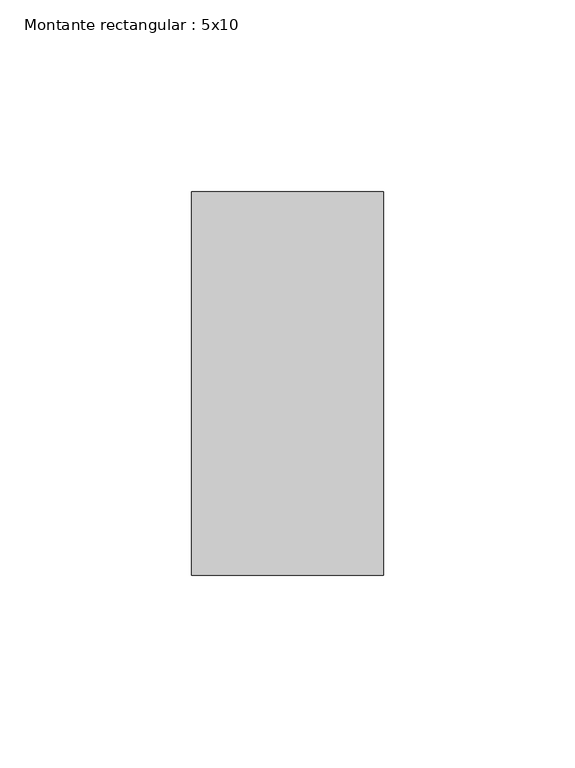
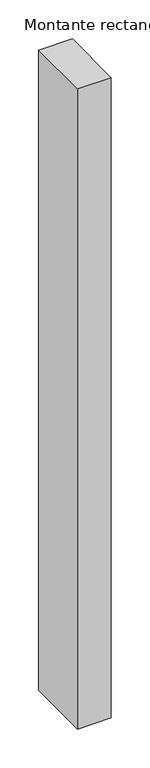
"""IFC4 building model written with IfcOpenShell, lengths in millimetres: member geometry, Montante rectangular : 5x10."""

from ifc_helpers import new_model, si_unit, frame, origin, place, context, project, spatial, polyline, outline, extrude, source, transform, mapped, element, save


def montante_rectangular_5x10_a7036ec4(model_context):
    return source(origin(), model_context, "Body", "SweptSolid", [
        extrude(outline(polyline([(25.0, 50.0), (25.0, -50.0), (-25.0, -50.0), (-25.0, 50.0), (25.0, 50.0)])), frame((0.0, 0.0, -1005.0019672), z_axis=(0.0, 0.0, 1.0), x_axis=(1.0, 0.0, 0.0)), (0.0, 0.0, 1.0), 1005.0019672),
    ])


if __name__ == "__main__":
    model = new_model("IFC4")
    model_context = context("Model", 3, world=origin())
    ifc_project = project(units=[si_unit("LENGTHUNIT", "METRE", prefix="MILLI")], contexts=[model_context])
    site = spatial("IfcSite", under=ifc_project)
    building = spatial("IfcBuilding", under=site)
    placement = place(None, origin())
    montante_rectangular_5x10_shape = montante_rectangular_5x10_a7036ec4(model_context)
    element("IfcMember", 1, ObjectType="Montante rectangular : 5x10", at=placement, inside=building, context=model_context, shape_type="MappedRepresentation", body=[
        mapped(montante_rectangular_5x10_shape, transform((0.0, 0.0, 0.0), x_axis=(1.0, 0.0, 0.0), y_axis=(0.0, 1.0, 0.0), z_axis=(0.0, 0.0, 1.0))),
    ])
    save(model, "model.ifc")
